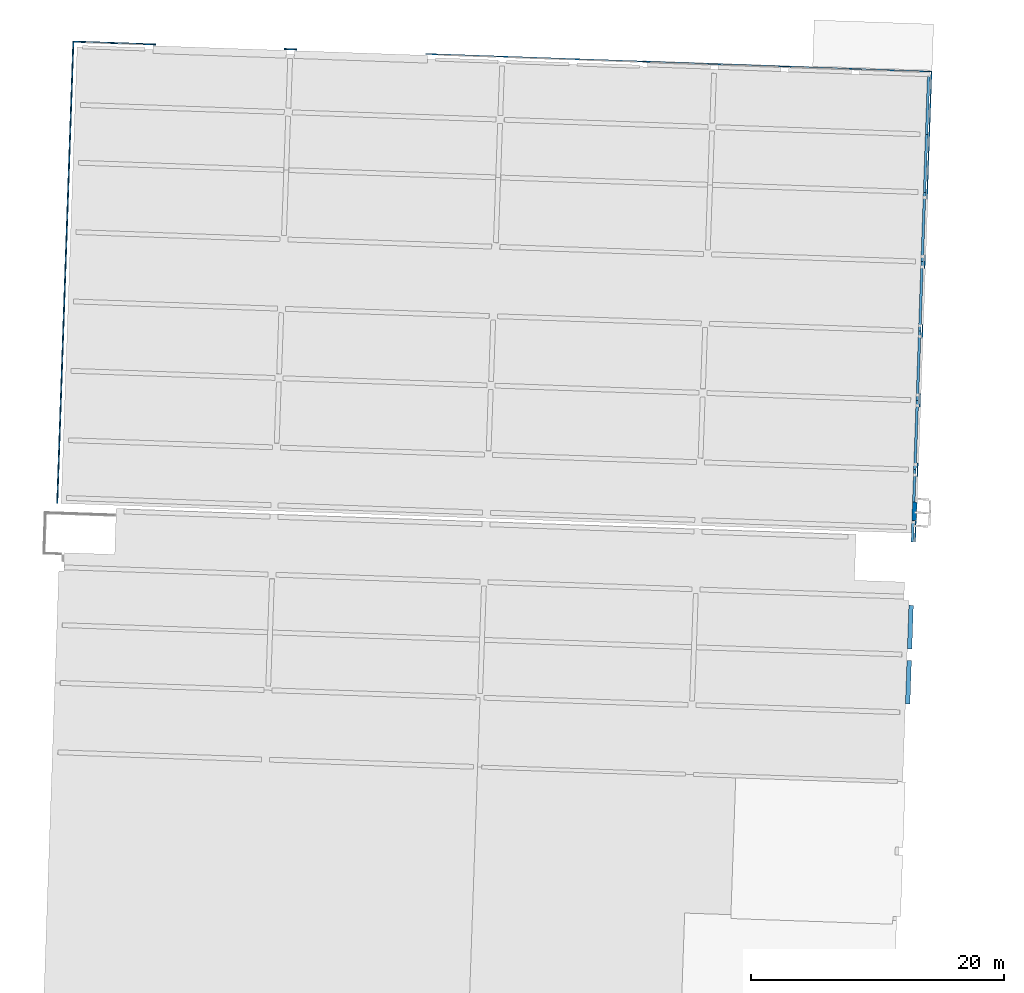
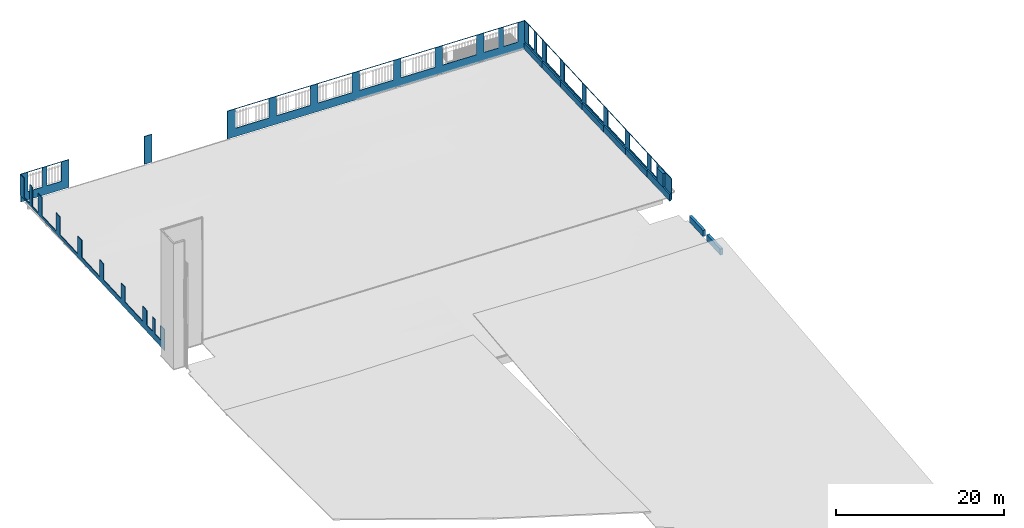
# One storey, part 11 of 17: 15 walls, 28 openings.
"""IFC2X3 building model written with IfcOpenShell, lengths in feet."""

from ifc_helpers import new_model, entity, si_unit, converted_unit, derived_unit, direction, frame, frame_2d, origin, origin_2d_with_axis, place, context, subcontext, project, spatial, rectangle, extrude, material, layer, layer_set, layer_usage, type_object, element, save


model = new_model("IFC2X3")

# Units and contexts
model_context = context("Model", 3, precision=0.0001, world=origin(), true_north=direction((0.999390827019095, 0.0348994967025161)))
body_context = subcontext(model_context, "Body", "Model", "MODEL_VIEW")
ifc_project = project(units=[converted_unit("LENGTHUNIT", "FOOT", entity("IfcRatioMeasure", 0.3048), si_unit("LENGTHUNIT", "METRE"), dimensions=[1, 0, 0, 0, 0, 0, 0]), converted_unit("AREAUNIT", "SQUARE FOOT", entity("IfcRatioMeasure", 0.09290304), si_unit("AREAUNIT", "SQUARE_METRE"), dimensions=[2, 0, 0, 0, 0, 0, 0]), converted_unit("VOLUMEUNIT", "CUBIC FOOT", entity("IfcRatioMeasure", 0.028316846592), si_unit("VOLUMEUNIT", "CUBIC_METRE"), dimensions=[3, 0, 0, 0, 0, 0, 0]), converted_unit("PLANEANGLEUNIT", "DEGREE", entity("IfcRatioMeasure", 0.0174532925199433), si_unit("PLANEANGLEUNIT", "RADIAN"), dimensions=[0, 0, 0, 0, 0, 0, 0]), si_unit("MASSUNIT", "GRAM", prefix="KILO"), si_unit("TIMEUNIT", "SECOND"), si_unit("FREQUENCYUNIT", "HERTZ"), si_unit("THERMODYNAMICTEMPERATUREUNIT", "DEGREE_CELSIUS"), derived_unit("THERMALTRANSMITTANCEUNIT", [(si_unit("MASSUNIT", "GRAM", prefix="KILO"), 1), (si_unit("THERMODYNAMICTEMPERATUREUNIT", "KELVIN"), -1), (si_unit("TIMEUNIT", "SECOND"), -3)]), derived_unit("VOLUMETRICFLOWRATEUNIT", [(si_unit("LENGTHUNIT", "METRE"), 3), (si_unit("TIMEUNIT", "SECOND"), -1)]), si_unit("ELECTRICCURRENTUNIT", "AMPERE"), si_unit("ELECTRICVOLTAGEUNIT", "VOLT"), si_unit("POWERUNIT", "WATT"), si_unit("FORCEUNIT", "NEWTON"), si_unit("ILLUMINANCEUNIT", "LUX"), si_unit("LUMINOUSFLUXUNIT", "LUMEN"), si_unit("LUMINOUSINTENSITYUNIT", "CANDELA"), derived_unit("USERDEFINED", [(si_unit("MASSUNIT", "GRAM", prefix="KILO"), -1), (si_unit("LENGTHUNIT", "METRE"), -2), (si_unit("TIMEUNIT", "SECOND"), 3), (si_unit("LUMINOUSFLUXUNIT", "LUMEN"), 1)]), derived_unit("LINEARVELOCITYUNIT", [(si_unit("LENGTHUNIT", "METRE"), 1), (si_unit("TIMEUNIT", "SECOND"), -1)]), si_unit("PRESSUREUNIT", "PASCAL"), derived_unit("USERDEFINED", [(si_unit("LENGTHUNIT", "METRE"), -2), (si_unit("MASSUNIT", "GRAM", prefix="KILO"), 1), (si_unit("TIMEUNIT", "SECOND"), -2)])], contexts=[model_context])

# Site, building, storey
site_placement = place(None, frame((892.518771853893, 322.38689265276, 0.00393700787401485), z_axis=(0.0, 0.0, 1.0), x_axis=(0.0348994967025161, 0.999390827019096, 0.0)))
site = spatial("IfcSite", under=ifc_project, at=site_placement, Name="Default", CompositionType="ELEMENT")
building_placement = place(site_placement, origin())
building = spatial("IfcBuilding", under=site, at=building_placement, CompositionType="ELEMENT")
storey_placement = place(building_placement, frame((0.0, 0.0, 557.0)))
storey = spatial("IfcBuildingStorey", under=building, at=storey_placement, Name="Existing Garage - 1st Level", CompositionType="ELEMENT", Elevation=557.0)

# Wall, openings
ifc_material_1 = material(Name="Masonry - Brick")
ifc_layer_1 = layer(ifc_material_1, 0.302083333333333)
ifc_layer_set_1 = layer_set([ifc_layer_1], Name="Basic Wall:(Existing) Exterior - Brick Veneer 3 5/8\"")
ifc_layer_usage_1 = layer_usage(ifc_layer_set_1, "AXIS2", "NEGATIVE", 0.151041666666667)
wall_type_1 = type_object("IfcWallType", Name="Basic Wall:(Existing) Exterior - Brick Veneer 3 5/8\"", PredefinedType="STANDARD", material=ifc_layer_set_1)
wall_1_placement = place(storey_placement, frame((104.425420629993, 458.112911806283, 0.0)))
wall_1 = element("IfcWallStandardCase", 1, at=wall_1_placement, inside=storey, type_object=wall_type_1, material=ifc_layer_usage_1, Name="Basic Wall:(Existing) Exterior - Brick Veneer 3 5/8\"", ObjectType="Basic Wall:(Existing) Exterior - Brick Veneer 3 5/8\"", context=body_context, shape_type="SweptSolid", body=[
    extrude(rectangle(XDim=120.00187244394, YDim=0.302083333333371, at=frame_2d((60.00093622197, 0.0), x_axis=(-1.0, 0.0))), origin(), (0.0, 0.0, 1.0), 10.0),
])
opening_1_placement = place(wall_1_placement, origin())
element("IfcOpeningElement", 2, at=opening_1_placement, cuts=wall_1, Name="Basic Wall:(Existing) Exterior - Brick Veneer 3 5/8\"", ObjectType="Opening", context=body_context, shape_type="SweptSolid", body=[
    extrude(rectangle(XDim=9.1100000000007, YDim=4.75000000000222, at=frame_2d((0.0, 5.6843418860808e-14), x_axis=(0.0, 1.0))), frame((114.293539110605, 0.151041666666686, 5.44499999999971), z_axis=(0.0, -1.0, 0.0), x_axis=(-1.0, 0.0, 0.0)), (0.0, 0.0, 1.0), 0.302083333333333),
])
opening_2_placement = place(wall_1_placement, origin())
element("IfcOpeningElement", 3, at=opening_2_placement, cuts=wall_1, Name="Basic Wall:(Existing) Exterior - Brick Veneer 3 5/8\"", ObjectType="Opening", context=body_context, shape_type="SweptSolid", body=[
    extrude(rectangle(XDim=9.1100000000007, YDim=4.75000000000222, at=frame_2d((0.0, 5.6843418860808e-14), x_axis=(0.0, 1.0))), frame((107.543539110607, 0.151041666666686, 5.44499999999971), z_axis=(0.0, -1.0, 0.0), x_axis=(-1.0, 0.0, 0.0)), (0.0, 0.0, 1.0), 0.302083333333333),
])
opening_3_placement = place(wall_1_placement, origin())
element("IfcOpeningElement", 4, at=opening_3_placement, cuts=wall_1, Name="Basic Wall:(Existing) Exterior - Brick Veneer 3 5/8\"", ObjectType="Opening", context=body_context, shape_type="SweptSolid", body=[
    extrude(rectangle(XDim=8.66000000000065, YDim=11.6666666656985, at=frame_2d((0.0, -5.6843418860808e-14), x_axis=(0.0, 1.0))), frame((96.0018724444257, 0.151041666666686, 5.66999999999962), z_axis=(0.0, -1.0, 0.0), x_axis=(-1.0, 0.0, 0.0)), (0.0, 0.0, 1.0), 0.302083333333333),
])
opening_4_placement = place(wall_1_placement, origin())
element("IfcOpeningElement", 5, at=opening_4_placement, cuts=wall_1, Name="Basic Wall:(Existing) Exterior - Brick Veneer 3 5/8\"", ObjectType="Opening", context=body_context, shape_type="SweptSolid", body=[
    extrude(rectangle(XDim=8.44000000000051, YDim=14.6666666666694, at=frame_2d((0.0, 0.0), x_axis=(0.0, 1.0))), frame((79.5018724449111, 0.151041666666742, 5.77999999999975), z_axis=(0.0, -1.0, 0.0), x_axis=(-1.0, 0.0, 0.0)), (0.0, 0.0, 1.0), 0.302083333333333),
])
opening_5_placement = place(wall_1_placement, origin())
element("IfcOpeningElement", 6, at=opening_5_placement, cuts=wall_1, Name="Basic Wall:(Existing) Exterior - Brick Veneer 3 5/8\"", ObjectType="Opening", context=body_context, shape_type="SweptSolid", body=[
    extrude(rectangle(XDim=7.99000000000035, YDim=14.6666666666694, at=frame_2d((0.0, 5.6843418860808e-14), x_axis=(0.0, 1.0))), frame((61.5018724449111, 0.151041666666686, 6.00499999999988), z_axis=(0.0, -1.0, 0.0), x_axis=(-1.0, 0.0, 0.0)), (0.0, 0.0, 1.0), 0.302083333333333),
])
opening_6_placement = place(wall_1_placement, origin())
element("IfcOpeningElement", 7, at=opening_6_placement, cuts=wall_1, Name="Basic Wall:(Existing) Exterior - Brick Veneer 3 5/8\"", ObjectType="Opening", context=body_context, shape_type="SweptSolid", body=[
    extrude(rectangle(XDim=7.54000000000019, YDim=14.6666666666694, at=frame_2d((1.4210854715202e-14, 0.0), x_axis=(0.0, 1.0))), frame((43.5018724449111, 0.151041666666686, 6.2299999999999), z_axis=(0.0, -1.0, 0.0), x_axis=(-1.0, 0.0, 0.0)), (0.0, 0.0, 1.0), 0.302083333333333),
])
opening_7_placement = place(wall_1_placement, origin())
element("IfcOpeningElement", 8, at=opening_7_placement, cuts=wall_1, Name="Basic Wall:(Existing) Exterior - Brick Veneer 3 5/8\"", ObjectType="Opening", context=body_context, shape_type="SweptSolid", body=[
    extrude(rectangle(XDim=7.10000000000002, YDim=14.6666666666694, at=frame_2d((1.4210854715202e-14, 5.6843418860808e-14), x_axis=(0.0, 1.0))), frame((25.501872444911, 0.151041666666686, 6.45000000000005), z_axis=(0.0, -1.0, 0.0), x_axis=(-1.0, 0.0, 0.0)), (0.0, 0.0, 1.0), 0.302083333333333),
])
opening_8_placement = place(wall_1_placement, origin())
element("IfcOpeningElement", 9, at=opening_8_placement, cuts=wall_1, Name="Basic Wall:(Existing) Exterior - Brick Veneer 3 5/8\"", ObjectType="Opening", context=body_context, shape_type="SweptSolid", body=[
    extrude(rectangle(XDim=6.88, YDim=4.75093622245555, at=frame_2d((0.0, -5.6843418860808e-14), x_axis=(0.0, 1.0))), frame((12.4597376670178, 0.151041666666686, 6.55999999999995), z_axis=(0.0, -1.0, 0.0), x_axis=(-1.0, 0.0, 0.0)), (0.0, 0.0, 1.0), 0.302083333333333),
])
opening_9_placement = place(wall_1_placement, origin())
element("IfcOpeningElement", 10, at=opening_9_placement, cuts=wall_1, Name="Basic Wall:(Existing) Exterior - Brick Veneer 3 5/8\"", ObjectType="Opening", context=body_context, shape_type="SweptSolid", body=[
    extrude(rectangle(XDim=6.88, YDim=4.75093622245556, at=frame_2d((7.105427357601e-15, -5.6843418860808e-14), x_axis=(0.0, 1.0))), frame((5.70880144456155, 0.151041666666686, 6.55999999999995), z_axis=(0.0, -1.0, 0.0), x_axis=(-1.0, 0.0, 0.0)), (0.0, 0.0, 1.0), 0.302083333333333),
])

ifc_layer_usage_2 = layer_usage(ifc_layer_set_1, "AXIS2", "NEGATIVE", 0.151041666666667)
wall_2_placement = place(storey_placement, frame((224.276251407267, 457.961870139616, -3.27999999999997), z_axis=(0.0, 0.0, 1.0), x_axis=(0.0, -1.0, 0.0)))
wall_2 = element("IfcWallStandardCase", 11, at=wall_2_placement, inside=storey, type_object=wall_type_1, material=ifc_layer_usage_2, Name="Basic Wall:(Existing) Exterior - Brick Veneer 3 5/8\"", ObjectType="Basic Wall:(Existing) Exterior - Brick Veneer 3 5/8\"", context=body_context, shape_type="SweptSolid", body=[
    extrude(rectangle(XDim=21.1979166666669, YDim=0.302083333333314, at=frame_2d((10.5989583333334, 3.34454686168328e-15), x_axis=(-1.0, 0.0))), origin(), (0.0, 0.0, 1.0), 13.28),
])
opening_10_placement = place(wall_2_placement, origin())
element("IfcOpeningElement", 12, at=opening_10_placement, cuts=wall_2, Name="Basic Wall:(Existing) Exterior - Brick Veneer 3 5/8\"", ObjectType="Opening", context=body_context, shape_type="SweptSolid", body=[
    extrude(rectangle(XDim=9.11000000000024, YDim=6.4166666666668, at=frame_2d((2.8421709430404e-14, 5.6843418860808e-14), x_axis=(0.0, 1.0))), frame((14.6562500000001, 0.151041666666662, 8.55499999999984), z_axis=(0.0, -1.0, 0.0), x_axis=(1.0, 0.0, 0.0)), (0.0, 0.0, 1.0), 0.302083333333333),
])
opening_11_placement = place(wall_2_placement, origin())
element("IfcOpeningElement", 13, at=opening_11_placement, cuts=wall_2, Name="Basic Wall:(Existing) Exterior - Brick Veneer 3 5/8\"", ObjectType="Opening", context=body_context, shape_type="SweptSolid", body=[
    extrude(rectangle(XDim=9.11000000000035, YDim=6.41666666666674, at=origin_2d_with_axis()), frame((6.23958333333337, 0.151041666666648, 8.55499999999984), z_axis=(0.0, -1.0, 0.0), x_axis=(0.0, 0.0, -1.0)), (0.0, 0.0, 1.0), 0.302083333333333),
])

ifc_layer_usage_3 = layer_usage(ifc_layer_set_1, "AXIS2", "NEGATIVE", 0.151041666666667)
wall_3_placement = place(storey_placement, frame((224.125209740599, 235.414995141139, 0.0), z_axis=(0.0, 0.0, 1.0), x_axis=(-1.0, 0.0, 0.0)))
wall_3 = element("IfcWallStandardCase", 14, at=wall_3_placement, inside=storey, type_object=wall_type_1, material=ifc_layer_usage_3, Name="Basic Wall:(Existing) Exterior - Brick Veneer 3 5/8\"", ObjectType="Basic Wall:(Existing) Exterior - Brick Veneer 3 5/8\"", context=body_context, shape_type="SweptSolid", body=[
    extrude(rectangle(XDim=121.932291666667, YDim=0.302083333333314, at=frame_2d((60.9661458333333, 3.20576898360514e-15), x_axis=(-1.0, 0.0))), origin(), (0.0, 0.0, 1.0), 10.0),
])
opening_12_placement = place(wall_3_placement, origin())
element("IfcOpeningElement", 15, at=opening_12_placement, cuts=wall_3, Name="Basic Wall:(Existing) Exterior - Brick Veneer 3 5/8\"", ObjectType="Opening", context=body_context, shape_type="SweptSolid", body=[
    extrude(rectangle(XDim=6.87666666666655, YDim=4.75093622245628, at=frame_2d((0.0, -7.105427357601e-15), x_axis=(1.0, 0.0))), frame((113.990987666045, 0.151041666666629, 6.38833333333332), z_axis=(0.0, -1.0, 0.0), x_axis=(0.0, 0.0, 1.0)), (0.0, 0.0, 1.0), 0.302083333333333),
])
opening_13_placement = place(wall_3_placement, origin())
element("IfcOpeningElement", 16, at=opening_13_placement, cuts=wall_3, Name="Basic Wall:(Existing) Exterior - Brick Veneer 3 5/8\"", ObjectType="Opening", context=body_context, shape_type="SweptSolid", body=[
    extrude(rectangle(XDim=6.87666666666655, YDim=4.75093622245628, at=frame_2d((0.0, 7.105427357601e-15), x_axis=(1.0, 0.0))), frame((107.240051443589, 0.151041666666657, 6.38833333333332), z_axis=(0.0, -1.0, 0.0), x_axis=(0.0, 0.0, 1.0)), (0.0, 0.0, 1.0), 0.302083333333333),
])
opening_14_placement = place(wall_3_placement, origin())
element("IfcOpeningElement", 17, at=opening_14_placement, cuts=wall_3, Name="Basic Wall:(Existing) Exterior - Brick Veneer 3 5/8\"", ObjectType="Opening", context=body_context, shape_type="SweptSolid", body=[
    extrude(rectangle(XDim=7.09999999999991, YDim=14.6666666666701, at=frame_2d((0.0, 7.105427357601e-15), x_axis=(1.0, 0.0))), frame((94.1979166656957, 0.151041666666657, 6.28000000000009), z_axis=(0.0, -1.0, 0.0), x_axis=(0.0, 0.0, 1.0)), (0.0, 0.0, 1.0), 0.302083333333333),
])
opening_15_placement = place(wall_3_placement, origin())
element("IfcOpeningElement", 18, at=opening_15_placement, cuts=wall_3, Name="Basic Wall:(Existing) Exterior - Brick Veneer 3 5/8\"", ObjectType="Opening", context=body_context, shape_type="SweptSolid", body=[
    extrude(rectangle(XDim=7.53999999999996, YDim=14.6666666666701, at=frame_2d((0.0, 1.4210854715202e-14), x_axis=(1.0, 0.0))), frame((76.1979166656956, 0.151041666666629, 6.05999999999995), z_axis=(0.0, -1.0, 0.0), x_axis=(0.0, 0.0, 1.0)), (0.0, 0.0, 1.0), 0.302083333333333),
])
opening_16_placement = place(wall_3_placement, origin())
element("IfcOpeningElement", 19, at=opening_16_placement, cuts=wall_3, Name="Basic Wall:(Existing) Exterior - Brick Veneer 3 5/8\"", ObjectType="Opening", context=body_context, shape_type="SweptSolid", body=[
    extrude(rectangle(XDim=7.98666666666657, YDim=14.6666666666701, at=frame_2d((5.6843418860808e-14, 1.4210854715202e-14), x_axis=(1.0, 0.0))), frame((58.1979166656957, 0.151041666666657, 5.83333333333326), z_axis=(0.0, -1.0, 0.0), x_axis=(0.0, 0.0, 1.0)), (0.0, 0.0, 1.0), 0.302083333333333),
])
opening_17_placement = place(wall_3_placement, origin())
element("IfcOpeningElement", 20, at=opening_17_placement, cuts=wall_3, Name="Basic Wall:(Existing) Exterior - Brick Veneer 3 5/8\"", ObjectType="Opening", context=body_context, shape_type="SweptSolid", body=[
    extrude(rectangle(XDim=8.43999999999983, YDim=14.6666666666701, at=origin_2d_with_axis()), frame((40.1979166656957, 0.151041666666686, 5.6099999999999), z_axis=(0.0, -1.0, 0.0), x_axis=(0.0, 0.0, 1.0)), (0.0, 0.0, 1.0), 0.302083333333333),
])
opening_18_placement = place(wall_3_placement, origin())
element("IfcOpeningElement", 21, at=opening_18_placement, cuts=wall_3, Name="Basic Wall:(Existing) Exterior - Brick Veneer 3 5/8\"", ObjectType="Opening", context=body_context, shape_type="SweptSolid", body=[
    extrude(rectangle(XDim=8.65666666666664, YDim=11.6666666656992, at=frame_2d((5.6843418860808e-14, 1.4210854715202e-14), x_axis=(1.0, 0.0))), frame((23.6979166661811, 0.151041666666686, 5.49833333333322), z_axis=(0.0, -1.0, 0.0), x_axis=(0.0, 0.0, 1.0)), (0.0, 0.0, 1.0), 0.302083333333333),
])
opening_19_placement = place(wall_3_placement, origin())
element("IfcOpeningElement", 22, at=opening_19_placement, cuts=wall_3, Name="Basic Wall:(Existing) Exterior - Brick Veneer 3 5/8\"", ObjectType="Opening", context=body_context, shape_type="SweptSolid", body=[
    extrude(rectangle(XDim=9.10666666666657, YDim=4.75000000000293, at=frame_2d((0.0, 1.4210854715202e-14), x_axis=(1.0, 0.0))), frame((12.1562500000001, 0.151041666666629, 5.27333333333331), z_axis=(0.0, -1.0, 0.0), x_axis=(0.0, 0.0, 1.0)), (0.0, 0.0, 1.0), 0.302083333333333),
])
opening_20_placement = place(wall_3_placement, origin())
element("IfcOpeningElement", 23, at=opening_20_placement, cuts=wall_3, Name="Basic Wall:(Existing) Exterior - Brick Veneer 3 5/8\"", ObjectType="Opening", context=body_context, shape_type="SweptSolid", body=[
    extrude(rectangle(XDim=9.10999999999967, YDim=4.75000000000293, at=frame_2d((0.0, 1.4210854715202e-14), x_axis=(1.0, 0.0))), frame((5.40625000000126, 0.151041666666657, 5.27499999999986), z_axis=(0.0, -1.0, 0.0), x_axis=(0.0, 0.0, 1.0)), (0.0, 0.0, 1.0), 0.302083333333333),
])

ifc_layer_usage_4 = layer_usage(ifc_layer_set_1, "AXIS2", "NEGATIVE", 0.151041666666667)
wall_4_placement = place(storey_placement, frame((224.276251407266, 366.763953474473, -3.27999999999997), z_axis=(0.0, 0.0, 1.0), x_axis=(0.0, -1.0, 0.0)))
wall_4 = element("IfcWallStandardCase", 24, at=wall_4_placement, inside=storey, type_object=wall_type_1, material=ifc_layer_usage_4, Name="Basic Wall:(Existing) Exterior - Brick Veneer 3 5/8\"", ObjectType="Basic Wall:(Existing) Exterior - Brick Veneer 3 5/8\"", context=body_context, shape_type="SweptSolid", body=[
    extrude(rectangle(XDim=131.5, YDim=0.302083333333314, at=frame_2d((65.75, -4.74620343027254e-15), x_axis=(-1.0, 0.0))), origin(), (0.0, 0.0, 1.0), 13.28),
])
opening_21_placement = place(wall_4_placement, origin())
element("IfcOpeningElement", 25, at=opening_21_placement, cuts=wall_4, Name="Basic Wall:(Existing) Exterior - Brick Veneer 3 5/8\"", ObjectType="Opening", context=body_context, shape_type="SweptSolid", body=[
    extrude(rectangle(XDim=9.11000000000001, YDim=6.4166666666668, at=frame_2d((-5.6843418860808e-14, 0.0), x_axis=(1.0, 0.0))), frame((124.958333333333, 0.151041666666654, 8.55500000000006), z_axis=(0.0, -1.0, 0.0), x_axis=(0.0, 0.0, 1.0)), (0.0, 0.0, 1.0), 0.302083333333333),
])
opening_22_placement = place(wall_4_placement, origin())
element("IfcOpeningElement", 26, at=opening_22_placement, cuts=wall_4, Name="Basic Wall:(Existing) Exterior - Brick Veneer 3 5/8\"", ObjectType="Opening", context=body_context, shape_type="SweptSolid", body=[
    extrude(rectangle(XDim=9.11000000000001, YDim=6.4166666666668, at=frame_2d((0.0, -5.6843418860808e-14), x_axis=(0.0, -1.0))), frame((116.541666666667, 0.151041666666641, 8.55499999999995), z_axis=(0.0, 1.0, 0.0), x_axis=(1.0, 0.0, 0.0)), (0.0, 0.0, -1.0), 0.302083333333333),
])
opening_23_placement = place(wall_4_placement, origin())
element("IfcOpeningElement", 27, at=opening_23_placement, cuts=wall_4, Name="Basic Wall:(Existing) Exterior - Brick Veneer 3 5/8\"", ObjectType="Opening", context=body_context, shape_type="SweptSolid", body=[
    extrude(rectangle(XDim=9.11000000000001, YDim=14.9999999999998, at=frame_2d((-5.6843418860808e-14, -2.8421709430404e-14), x_axis=(1.0, 0.0))), frame((102.5, 0.151041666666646, 8.55500000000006), z_axis=(0.0, -1.0, 0.0), x_axis=(0.0, 0.0, 1.0)), (0.0, 0.0, 1.0), 0.302083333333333),
])
opening_24_placement = place(wall_4_placement, origin())
element("IfcOpeningElement", 28, at=opening_24_placement, cuts=wall_4, Name="Basic Wall:(Existing) Exterior - Brick Veneer 3 5/8\"", ObjectType="Opening", context=body_context, shape_type="SweptSolid", body=[
    extrude(rectangle(XDim=9.11000000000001, YDim=15.0000000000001, at=frame_2d((-5.6843418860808e-14, 0.0), x_axis=(1.0, 0.0))), frame((84.1666666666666, 0.151041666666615, 8.55500000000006), z_axis=(0.0, -1.0, 0.0), x_axis=(0.0, 0.0, 1.0)), (0.0, 0.0, 1.0), 0.302083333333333),
])
opening_25_placement = place(wall_4_placement, origin())
element("IfcOpeningElement", 29, at=opening_25_placement, cuts=wall_4, Name="Basic Wall:(Existing) Exterior - Brick Veneer 3 5/8\"", ObjectType="Opening", context=body_context, shape_type="SweptSolid", body=[
    extrude(rectangle(XDim=9.11000000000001, YDim=14.9999999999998, at=frame_2d((-5.6843418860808e-14, -2.8421709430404e-14), x_axis=(1.0, 0.0))), frame((65.8333333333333, 0.151041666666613, 8.55500000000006), z_axis=(0.0, -1.0, 0.0), x_axis=(0.0, 0.0, 1.0)), (0.0, 0.0, 1.0), 0.302083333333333),
])
opening_26_placement = place(wall_4_placement, origin())
element("IfcOpeningElement", 30, at=opening_26_placement, cuts=wall_4, Name="Basic Wall:(Existing) Exterior - Brick Veneer 3 5/8\"", ObjectType="Opening", context=body_context, shape_type="SweptSolid", body=[
    extrude(rectangle(XDim=9.11000000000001, YDim=14.9999999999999, at=frame_2d((-5.6843418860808e-14, -2.8421709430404e-14), x_axis=(1.0, 0.0))), frame((47.5, 0.15104166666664, 8.55500000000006), z_axis=(0.0, -1.0, 0.0), x_axis=(0.0, 0.0, 1.0)), (0.0, 0.0, 1.0), 0.302083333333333),
])
opening_27_placement = place(wall_4_placement, origin())
element("IfcOpeningElement", 31, at=opening_27_placement, cuts=wall_4, Name="Basic Wall:(Existing) Exterior - Brick Veneer 3 5/8\"", ObjectType="Opening", context=body_context, shape_type="SweptSolid", body=[
    extrude(rectangle(XDim=9.11000000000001, YDim=15.0000000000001, at=frame_2d((0.0, 5.6843418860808e-14), x_axis=(0.0, 1.0))), frame((29.1666666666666, 0.151041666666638, 8.55499999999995), z_axis=(0.0, -1.0, 0.0), x_axis=(1.0, 0.0, 0.0)), (0.0, 0.0, 1.0), 0.302083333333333),
])
opening_28_placement = place(wall_4_placement, origin())
element("IfcOpeningElement", 32, at=opening_28_placement, cuts=wall_4, Name="Basic Wall:(Existing) Exterior - Brick Veneer 3 5/8\"", ObjectType="Opening", context=body_context, shape_type="SweptSolid", body=[
    extrude(rectangle(XDim=9.11000000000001, YDim=14.8020833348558, at=frame_2d((2.8421709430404e-14, -5.6843418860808e-14), x_axis=(0.0, -1.0))), frame((10.9322916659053, 0.151041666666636, 8.55500000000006), z_axis=(0.0, 1.0, 0.0), x_axis=(-1.0, 0.0, 0.0)), (0.0, 0.0, -1.0), 0.302083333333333),
])

# Walls
ifc_layer_usage_5 = layer_usage(ifc_layer_set_1, "AXIS2", "NEGATIVE", 0.151041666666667)
wall_5_placement = place(storey_placement, frame((224.276251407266, 403.430620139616, -3.27999999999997), z_axis=(0.0, 0.0, 1.0), x_axis=(0.0, -1.0, 0.0)))
element("IfcWallStandardCase", 33, at=wall_5_placement, inside=storey, type_object=wall_type_1, material=ifc_layer_usage_5, Name="Basic Wall:(Existing) Exterior - Brick Veneer 3 5/8\"", ObjectType="Basic Wall:(Existing) Exterior - Brick Veneer 3 5/8\"", context=body_context, shape_type="SweptSolid", body=[
    extrude(rectangle(XDim=3.33333333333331, YDim=0.302083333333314, at=frame_2d((1.66666666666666, 2.76167977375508e-15), x_axis=(-1.0, 0.0))), origin(), (0.0, 0.0, 1.0), 13.28),
])
ifc_layer_2 = layer(ifc_material_1, 0.302083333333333)
ifc_material_2 = material(Name="Misc. Air Layers - Air Space")
ifc_layer_3 = layer(ifc_material_2, 0.197916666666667)
ifc_material_3 = material(Name="Concrete - Cast-in-Place Concrete_hatch surface")
ifc_layer_4 = layer(ifc_material_3, 0.666666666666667)
ifc_layer_set_2 = layer_set([ifc_layer_2, ifc_layer_3, ifc_layer_4], Name="Basic Wall:(existing)Exterior - Brick on Conc - 1'-2\"(2\" air space)")
ifc_layer_usage_6 = layer_usage(ifc_layer_set_2, "AXIS2", "POSITIVE", -0.583333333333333)
wall_type_2 = type_object("IfcWallType", Name="Basic Wall:(existing)Exterior - Brick on Conc - 1'-2\"(2\" air space)", PredefinedType="STANDARD", material=ifc_layer_set_2)
wall_6_placement = place(storey_placement, frame((74.4272968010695, 235.847286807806, 0.0)))
element("IfcWallStandardCase", 34, at=wall_6_placement, inside=storey, type_object=wall_type_2, material=ifc_layer_usage_6, Name="Basic Wall:(existing)Exterior - Brick on Conc - 1'-2\"(2\" air space)", ObjectType="Basic Wall:(existing)Exterior - Brick on Conc - 1'-2\"(2\" air space)", context=body_context, shape_type="SweptSolid", body=[
    extrude(rectangle(XDim=11.3333333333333, YDim=1.16666666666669, at=frame_2d((5.66666666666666, 0.0), x_axis=(-1.0, 0.0))), origin(), (0.0, 0.0, 1.0), 2.89583333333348),
])
ifc_layer_usage_7 = layer_usage(ifc_layer_set_2, "AXIS2", "POSITIVE", -0.583333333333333)
wall_7_placement = place(storey_placement, frame((60.0939209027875, 235.847286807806, 0.0)))
element("IfcWallStandardCase", 35, at=wall_7_placement, inside=storey, type_object=wall_type_2, material=ifc_layer_usage_7, Name="Basic Wall:(existing)Exterior - Brick on Conc - 1'-2\"(2\" air space)", ObjectType="Basic Wall:(existing)Exterior - Brick on Conc - 1'-2\"(2\" air space)", context=body_context, shape_type="SweptSolid", body=[
    extrude(rectangle(XDim=11.333375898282, YDim=1.16666666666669, at=frame_2d((5.66668794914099, 0.0), x_axis=(-1.0, 0.0))), origin(), (0.0, 0.0, 1.0), 2.89583333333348),
])
ifc_layer_5 = layer(ifc_material_1, 0.302083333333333)
ifc_material_4 = material(Name="Air Barrier - Air Infiltration Barrier")
ifc_layer_6 = layer(ifc_material_4, 0.229166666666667)
ifc_material_5 = material(Name="Masonry - Concrete Masonry Units")
ifc_layer_7 = layer(ifc_material_5, 0.635416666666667)
ifc_layer_set_3 = layer_set([ifc_layer_5, ifc_layer_6, ifc_layer_7], Name="Basic Wall:(existing) Exterior - Brick on CMU - 1'-2\"")
ifc_layer_usage_8 = layer_usage(ifc_layer_set_3, "AXIS2", "POSITIVE", -0.583333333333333)
wall_type_3 = type_object("IfcWallType", Name="Basic Wall:(existing) Exterior - Brick on CMU - 1'-2\"", PredefinedType="STANDARD", material=ifc_layer_set_3)
wall_8_placement = place(storey_placement, frame((107.758753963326, 235.847286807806, 2.95000000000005)))
element("IfcWallStandardCase", 36, at=wall_8_placement, inside=storey, type_object=wall_type_3, material=ifc_layer_usage_8, Name="Basic Wall:(existing) Exterior - Brick on CMU - 1'-2\"", ObjectType="Basic Wall:(existing) Exterior - Brick on CMU - 1'-2\"", context=body_context, shape_type="SweptSolid", body=[
    extrude(rectangle(XDim=4.7509362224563, YDim=1.16666666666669, at=frame_2d((2.37546811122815, 0.0), x_axis=(-1.0, 0.0))), origin(), (0.0, 0.0, 1.0), 6.38333333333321),
])
ifc_material_6 = material(Name="Concrete - Cast-in-Place Concrete")
ifc_layer_8 = layer(ifc_material_6, 0.666666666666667)
ifc_layer_set_4 = layer_set([ifc_layer_8], Name="Basic Wall:Exterior - Conc 8\"")
ifc_layer_usage_9 = layer_usage(ifc_layer_set_4, "AXIS2", "POSITIVE", -0.333333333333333)
wall_type_4 = type_object("IfcWallType", Name="Basic Wall:Exterior - Conc 8\"", PredefinedType="STANDARD", material=ifc_layer_set_4)
wall_9_placement = place(storey_placement, frame((120.927293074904, 236.097286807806, -0.385416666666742), z_axis=(0.0, 0.0, 1.0), x_axis=(-1.0, 0.0, 0.0)))
element("IfcWallStandardCase", 37, at=wall_9_placement, inside=storey, type_object=wall_type_4, material=ifc_layer_usage_9, Name="Basic Wall:Exterior - Conc 8\"", ObjectType="Basic Wall:Exterior - Conc 8\"", context=body_context, shape_type="SweptSolid", body=[
    extrude(rectangle(XDim=18.7343750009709, YDim=0.666666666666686, at=frame_2d((9.36718750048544, 7.07767178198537e-15), x_axis=(-1.0, 0.0))), origin(), (0.0, 0.0, 1.0), 3.33541666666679),
])
ifc_layer_usage_10 = layer_usage(ifc_layer_set_4, "AXIS2", "NEGATIVE", 0.333333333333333)
wall_10_placement = place(storey_placement, frame((120.927293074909, 236.097286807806, -0.614583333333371)))
element("IfcWallStandardCase", 38, at=wall_10_placement, inside=storey, type_object=wall_type_4, material=ifc_layer_usage_10, Name="Basic Wall:Exterior - Conc 8\"", ObjectType="Basic Wall:Exterior - Conc 8\"", context=body_context, shape_type="SweptSolid", body=[
    extrude(rectangle(XDim=17.9999999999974, YDim=0.666666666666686, at=frame_2d((8.99999999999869, -5.68989300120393e-15), x_axis=(-1.0, 0.0))), origin(), (0.0, 0.0, 1.0), 2.88541666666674),
])
ifc_layer_usage_11 = layer_usage(ifc_layer_set_4, "AXIS2", "POSITIVE", -0.333333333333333)
wall_11_placement = place(storey_placement, frame((156.927293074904, 236.097286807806, -1.05208333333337), z_axis=(0.0, 0.0, 1.0), x_axis=(-1.0, 0.0, 0.0)))
element("IfcWallStandardCase", 39, at=wall_11_placement, inside=storey, type_object=wall_type_4, material=ifc_layer_usage_11, Name="Basic Wall:Exterior - Conc 8\"", ObjectType="Basic Wall:Exterior - Conc 8\"", context=body_context, shape_type="SweptSolid", body=[
    extrude(rectangle(XDim=17.9999999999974, YDim=0.666666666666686, at=frame_2d((8.99999999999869, 5.68989300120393e-15), x_axis=(-1.0, 0.0))), origin(), (0.0, 0.0, 1.0), 2.88541666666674),
])
ifc_layer_usage_12 = layer_usage(ifc_layer_set_4, "AXIS2", "NEGATIVE", 0.333333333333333)
wall_12_placement = place(storey_placement, frame((156.927293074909, 236.097286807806, -1.5)))
element("IfcWallStandardCase", 40, at=wall_12_placement, inside=storey, type_object=wall_type_4, material=ifc_layer_usage_12, Name="Basic Wall:Exterior - Conc 8\"", ObjectType="Basic Wall:Exterior - Conc 8\"", context=body_context, shape_type="SweptSolid", body=[
    extrude(rectangle(XDim=17.9999999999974, YDim=0.666666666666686, at=frame_2d((8.99999999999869, -5.68989300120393e-15), x_axis=(-1.0, 0.0))), origin(), (0.0, 0.0, 1.0), 2.88541666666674),
])
ifc_layer_usage_13 = layer_usage(ifc_layer_set_4, "AXIS2", "NEGATIVE", 0.333333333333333)
wall_13_placement = place(storey_placement, frame((192.927293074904, 236.097286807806, -1.9375), z_axis=(0.0, 0.0, 1.0), x_axis=(-1.0, 0.0, 0.0)))
element("IfcWallStandardCase", 41, at=wall_13_placement, inside=storey, type_object=wall_type_4, material=ifc_layer_usage_13, Name="Basic Wall:Exterior - Conc 8\"", ObjectType="Basic Wall:Exterior - Conc 8\"", context=body_context, shape_type="SweptSolid", body=[
    extrude(rectangle(XDim=17.9999999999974, YDim=0.666666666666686, at=frame_2d((8.99999999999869, 5.68989300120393e-15), x_axis=(-1.0, 0.0))), origin(), (0.0, 0.0, 1.0), 2.88541666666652),
])
ifc_layer_usage_14 = layer_usage(ifc_layer_set_4, "AXIS2", "POSITIVE", -0.333333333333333)
wall_14_placement = place(storey_placement, frame((192.927293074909, 236.097286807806, -2.33333333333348)))
element("IfcWallStandardCase", 42, at=wall_14_placement, inside=storey, type_object=wall_type_4, material=ifc_layer_usage_14, Name="Basic Wall:Exterior - Conc 8\"", ObjectType="Basic Wall:Exterior - Conc 8\"", context=body_context, shape_type="SweptSolid", body=[
    extrude(rectangle(XDim=14.9999999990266, YDim=0.666666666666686, at=frame_2d((7.49999999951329, 0.0), x_axis=(-1.0, 0.0))), origin(), (0.0, 0.0, 1.0), 3.05208333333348),
])
ifc_layer_usage_15 = layer_usage(ifc_layer_set_4, "AXIS2", "NEGATIVE", 0.333333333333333)
wall_15_placement = place(storey_placement, frame((222.927293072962, 236.097286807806, -2.54166666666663), z_axis=(0.0, 0.0, 1.0), x_axis=(-1.0, 0.0, 0.0)))
element("IfcWallStandardCase", 43, at=wall_15_placement, inside=storey, type_object=wall_type_4, material=ifc_layer_usage_15, Name="Basic Wall:Exterior - Conc 8\"", ObjectType="Basic Wall:Exterior - Conc 8\"", context=body_context, shape_type="SweptSolid", body=[
    extrude(rectangle(XDim=14.9999999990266, YDim=0.666666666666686, at=frame_2d((7.49999999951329, 0.0), x_axis=(-1.0, 0.0))), origin(), (0.0, 0.0, 1.0), 2.84375),
])

save(model, "model.ifc")
